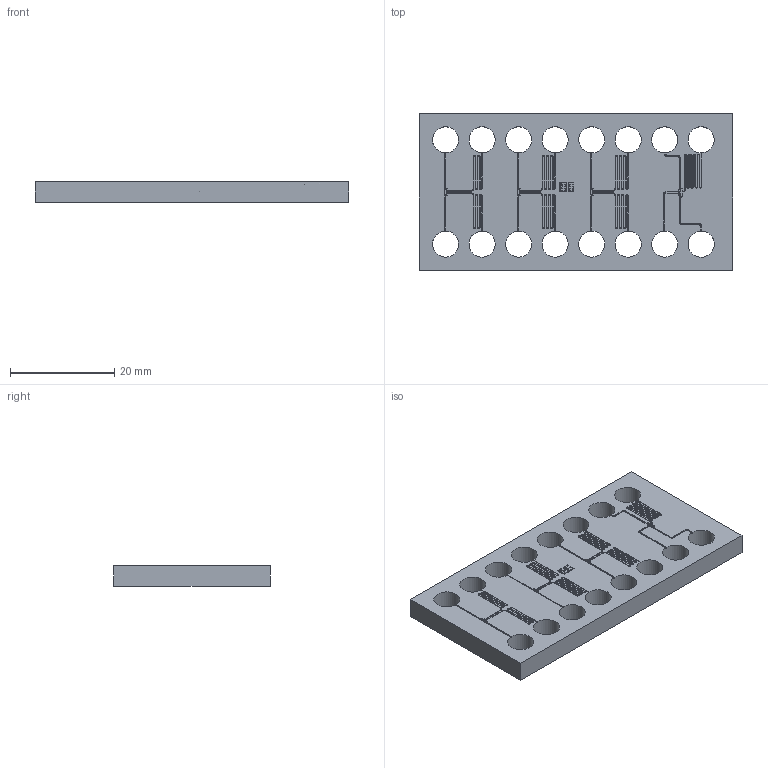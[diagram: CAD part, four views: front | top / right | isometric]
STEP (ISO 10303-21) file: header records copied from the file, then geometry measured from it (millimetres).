
FILE_DESCRIPTION(/* description */ (''),/* implementation_level */ '2;1');
FILE_NAME(/* name */ '//file.canterbury.ac.nz/user/J/jme174/Home/Documents/1) Reports, Presentations etc/1) Publications/Transistor valves 2019/Supplementary information/196 And-off valve v66.step',/* time_stamp */ '2020-01-14T14:55:28+13:00',/* author */ (''),/* organization */ (''),/* preprocessor_version */ 'ST-DEVELOPER v18',/* originating_system */ 'Autodesk Translation Framework v8.12.0.6',/* authorisation */ '');
FILE_SCHEMA (('AUTOMOTIVE_DESIGN { 1 0 10303 214 3 1 1 }'));
Length unit declared in the file: millimetre
Products named in the file (1): 196 And-off valve
Bounding box: 60 x 30 x 4 mm (x, y, z)
Volume: 5936.6 mm3; surface area: 4792.2 mm2
Topology: 1 solids, 1 shells, 341 faces, 1036 edges, 690 vertices
Faces by surface type: plane 197, cylinder 144
Full cylindrical faces by diameter (mm): 5 x16
Entity records: 11778 total; most frequent: ORIENTED_EDGE 2072, CARTESIAN_POINT 2068, DIRECTION 2040, EDGE_CURVE 1036, LINE 716, VECTOR 716, VERTEX_POINT 690, AXIS2_PLACEMENT_3D 662
